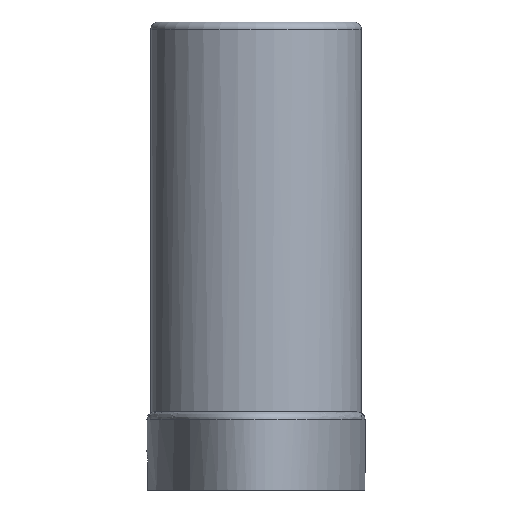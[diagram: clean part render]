
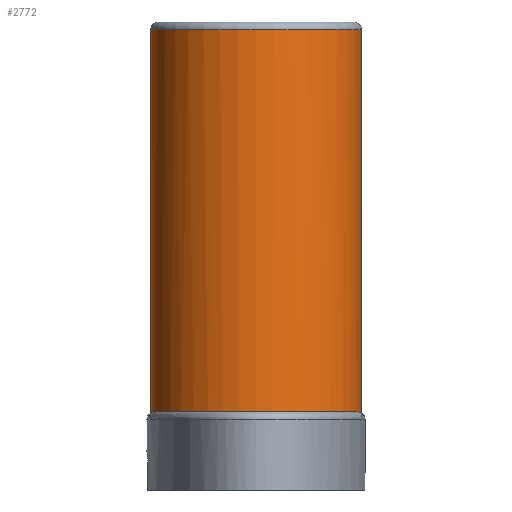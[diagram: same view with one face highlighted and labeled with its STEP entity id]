
A CAD part, left-side view. The second image highlights one B-rep face of the part: STEP entity #2772.
In plain terms, the highlighted cylindrical face has radius 6.75 mm (diameter 13.5 mm), a full revolution.
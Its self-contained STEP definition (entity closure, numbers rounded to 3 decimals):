
#318=LINE('',#5611,#521);
#521=VECTOR('',#3517,6.75);
#582=CYLINDRICAL_SURFACE('',#2983,6.75);
#723=FACE_OUTER_BOUND('',#891,.T.);
#891=EDGE_LOOP('',(#2524,#2525,#2526,#2527,#2528,#2529,#2530,#2531));
#982=CIRCLE('',#2951,6.75);
#983=CIRCLE('',#2952,6.75);
#996=CIRCLE('',#2982,6.75);
#997=CIRCLE('',#2984,6.75);
#1103=B_SPLINE_CURVE_WITH_KNOTS('',3,(#5228,#5229,#5230,#5231,#5232,#5233,
#5234,#5235,#5236,#5237,#5238,#5239,#5240,#5241,#5242,#5243,#5244,#5245,
#5246,#5247,#5248,#5249,#5250,#5251),.UNSPECIFIED.,.F.,.F.,(4,2,2,2,2,2,
2,2,2,2,2,4),(0.,0.021,0.173,0.183,
0.188,0.19,0.193,0.198,
0.207,0.228,0.277,0.367),
 .UNSPECIFIED.);
#1108=B_SPLINE_CURVE_WITH_KNOTS('',3,(#5303,#5304,#5305,#5306,#5307,#5308,
#5309,#5310,#5311,#5312,#5313,#5314,#5315,#5316,#5317,#5318,#5319,#5320,
#5321,#5322,#5323,#5324,#5325,#5326),.UNSPECIFIED.,.F.,.F.,(4,2,2,2,2,2,
2,2,2,2,2,4),(0.,0.021,0.173,0.183,
0.188,0.19,0.193,0.198,
0.207,0.228,0.277,0.367),
 .UNSPECIFIED.);
#1329=VERTEX_POINT('',#5226);
#1330=VERTEX_POINT('',#5227);
#1334=VERTEX_POINT('',#5293);
#1335=VERTEX_POINT('',#5302);
#1336=VERTEX_POINT('',#5345);
#1361=VERTEX_POINT('',#5607);
#1704=EDGE_CURVE('',#1329,#1330,#1103,.T.);
#1710=EDGE_CURVE('',#1335,#1334,#1108,.T.);
#1712=EDGE_CURVE('',#1335,#1336,#982,.T.);
#1713=EDGE_CURVE('',#1336,#1330,#983,.T.);
#1757=EDGE_CURVE('',#1361,#1361,#996,.T.);
#1758=EDGE_CURVE('',#1361,#1336,#318,.T.);
#1759=EDGE_CURVE('',#1329,#1334,#997,.T.);
#2524=ORIENTED_EDGE('',*,*,#1757,.F.);
#2525=ORIENTED_EDGE('',*,*,#1758,.T.);
#2526=ORIENTED_EDGE('',*,*,#1712,.F.);
#2527=ORIENTED_EDGE('',*,*,#1710,.T.);
#2528=ORIENTED_EDGE('',*,*,#1759,.F.);
#2529=ORIENTED_EDGE('',*,*,#1704,.T.);
#2530=ORIENTED_EDGE('',*,*,#1713,.F.);
#2531=ORIENTED_EDGE('',*,*,#1758,.F.);
#2772=ADVANCED_FACE('',(#723),#582,.T.);
#2951=AXIS2_PLACEMENT_3D('',#5346,#3432,#3433);
#2952=AXIS2_PLACEMENT_3D('',#5347,#3434,#3435);
#2982=AXIS2_PLACEMENT_3D('',#5609,#3513,#3514);
#2983=AXIS2_PLACEMENT_3D('',#5610,#3515,#3516);
#2984=AXIS2_PLACEMENT_3D('',#5612,#3518,#3519);
#3432=DIRECTION('center_axis',(0.,0.,-1.));
#3433=DIRECTION('ref_axis',(1.,0.,0.));
#3434=DIRECTION('center_axis',(0.,0.,-1.));
#3435=DIRECTION('ref_axis',(1.,0.,0.));
#3513=DIRECTION('center_axis',(0.,0.,1.));
#3514=DIRECTION('ref_axis',(1.,0.,0.));
#3515=DIRECTION('center_axis',(0.,0.,1.));
#3516=DIRECTION('ref_axis',(1.,0.,0.));
#3517=DIRECTION('',(0.,0.,-1.));
#3518=DIRECTION('center_axis',(0.,0.,-1.));
#3519=DIRECTION('ref_axis',(1.,0.,0.));
#5226=CARTESIAN_POINT('',(2.042,6.434,5.));
#5227=CARTESIAN_POINT('',(-2.042,6.434,5.));
#5228=CARTESIAN_POINT('Ctrl Pts',(2.042,6.434,5.));
#5229=CARTESIAN_POINT('Ctrl Pts',(1.976,6.455,5.));
#5230=CARTESIAN_POINT('Ctrl Pts',(1.911,6.474,4.999));
#5231=CARTESIAN_POINT('Ctrl Pts',(1.356,6.632,4.987));
#5232=CARTESIAN_POINT('Ctrl Pts',(0.809,6.728,4.943));
#5233=CARTESIAN_POINT('Ctrl Pts',(0.167,6.748,4.934));
#5234=CARTESIAN_POINT('Ctrl Pts',(0.127,6.749,4.933));
#5235=CARTESIAN_POINT('Ctrl Pts',(0.07,6.75,4.933));
#5236=CARTESIAN_POINT('Ctrl Pts',(0.053,6.75,4.933));
#5237=CARTESIAN_POINT('Ctrl Pts',(0.025,6.75,4.933));
#5238=CARTESIAN_POINT('Ctrl Pts',(0.014,6.75,4.933));
#5239=CARTESIAN_POINT('Ctrl Pts',(-0.008,6.75,
4.933));
#5240=CARTESIAN_POINT('Ctrl Pts',(-0.02,6.75,
4.933));
#5241=CARTESIAN_POINT('Ctrl Pts',(-0.048,6.75,
4.933));
#5242=CARTESIAN_POINT('Ctrl Pts',(-0.064,6.75,4.933));
#5243=CARTESIAN_POINT('Ctrl Pts',(-0.119,6.749,4.933));
#5244=CARTESIAN_POINT('Ctrl Pts',(-0.157,6.748,4.934));
#5245=CARTESIAN_POINT('Ctrl Pts',(-0.277,6.745,4.935));
#5246=CARTESIAN_POINT('Ctrl Pts',(-0.359,6.741,4.937));
#5247=CARTESIAN_POINT('Ctrl Pts',(-0.634,6.723,4.945));
#5248=CARTESIAN_POINT('Ctrl Pts',(-0.827,6.702,4.953));
#5249=CARTESIAN_POINT('Ctrl Pts',(-1.368,6.619,4.98));
#5250=CARTESIAN_POINT('Ctrl Pts',(-1.71,6.539,5.));
#5251=CARTESIAN_POINT('Ctrl Pts',(-2.042,6.434,5.));
#5293=CARTESIAN_POINT('',(2.042,-6.434,5.));
#5302=CARTESIAN_POINT('',(-2.042,-6.434,5.));
#5303=CARTESIAN_POINT('Ctrl Pts',(-2.042,-6.434,5.));
#5304=CARTESIAN_POINT('Ctrl Pts',(-1.976,-6.455,5.));
#5305=CARTESIAN_POINT('Ctrl Pts',(-1.911,-6.474,4.999));
#5306=CARTESIAN_POINT('Ctrl Pts',(-1.356,-6.632,4.987));
#5307=CARTESIAN_POINT('Ctrl Pts',(-0.809,-6.728,
4.943));
#5308=CARTESIAN_POINT('Ctrl Pts',(-0.167,-6.748,
4.934));
#5309=CARTESIAN_POINT('Ctrl Pts',(-0.127,-6.749,
4.934));
#5310=CARTESIAN_POINT('Ctrl Pts',(-0.07,-6.75,
4.933));
#5311=CARTESIAN_POINT('Ctrl Pts',(-0.053,-6.75,
4.933));
#5312=CARTESIAN_POINT('Ctrl Pts',(-0.025,-6.75,
4.933));
#5313=CARTESIAN_POINT('Ctrl Pts',(-0.014,-6.75,4.933));
#5314=CARTESIAN_POINT('Ctrl Pts',(0.008,-6.75,
4.933));
#5315=CARTESIAN_POINT('Ctrl Pts',(0.02,-6.75,
4.933));
#5316=CARTESIAN_POINT('Ctrl Pts',(0.048,-6.75,
4.933));
#5317=CARTESIAN_POINT('Ctrl Pts',(0.064,-6.75,
4.933));
#5318=CARTESIAN_POINT('Ctrl Pts',(0.119,-6.749,4.933));
#5319=CARTESIAN_POINT('Ctrl Pts',(0.157,-6.748,4.934));
#5320=CARTESIAN_POINT('Ctrl Pts',(0.277,-6.745,4.935));
#5321=CARTESIAN_POINT('Ctrl Pts',(0.359,-6.741,4.937));
#5322=CARTESIAN_POINT('Ctrl Pts',(0.634,-6.723,4.945));
#5323=CARTESIAN_POINT('Ctrl Pts',(0.827,-6.702,4.953));
#5324=CARTESIAN_POINT('Ctrl Pts',(1.368,-6.619,4.98));
#5325=CARTESIAN_POINT('Ctrl Pts',(1.71,-6.539,5.));
#5326=CARTESIAN_POINT('Ctrl Pts',(2.042,-6.434,5.));
#5345=CARTESIAN_POINT('',(-6.75,0.,5.));
#5346=CARTESIAN_POINT('Origin',(0.,0.,5.));
#5347=CARTESIAN_POINT('Origin',(0.,0.,5.));
#5607=CARTESIAN_POINT('',(-6.75,0.,29.433));
#5609=CARTESIAN_POINT('Origin',(0.,0.,29.433));
#5610=CARTESIAN_POINT('Origin',(0.,0.,5.));
#5611=CARTESIAN_POINT('',(-6.75,0.,5.));
#5612=CARTESIAN_POINT('Origin',(0.,0.,5.));
